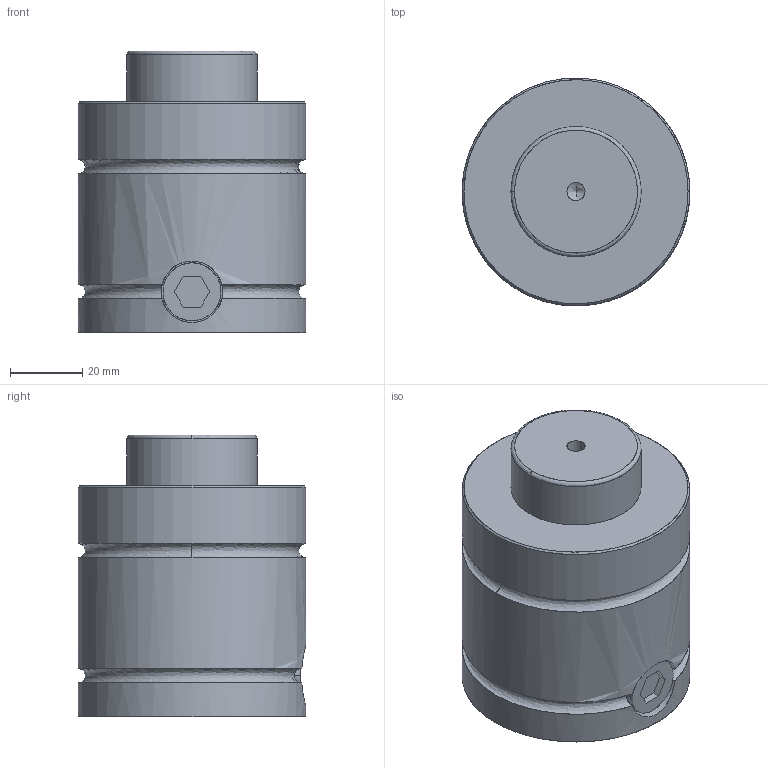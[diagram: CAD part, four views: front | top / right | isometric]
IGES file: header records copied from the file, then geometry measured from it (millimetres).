
Start section: VISI Layer Mapping Iges    VISI  0      LAYER_EMPTY  1      wwww  7      W_PD700  8      S_PD700  10     W_PD1000  11     S_PD1000  13     W_PD2000  14     S_PD2000  16     W_PD3000  17     S_PD3000  19     W_PD4000  20     S_PD4000  22     W_PD7000  23     S_PD7000  28     W_350  29     MS-350  30     MC-350  31     MP-350  32     MB-350  33     MH-350  34     MK-350  35     MPL-350  39     W_500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
Global section: file name: E:\だ錶臢\だ錶臢3D\SYLINDER\PT Series\PT1500\PT1500\PT1500-13.igs; native system: VISI 16.0; preprocessor: 2.0; author: 11; organization: 0; date: 500.; units: mil
Bounding box: 63 x 63 x 78 mm (x, y, z)
Surface area: 23185.5 mm2 (no closed solid volume)
Topology: 0 solids, 0 shells, 33 faces, 476 edges, 450 vertices
Faces by surface type: bspline 33
